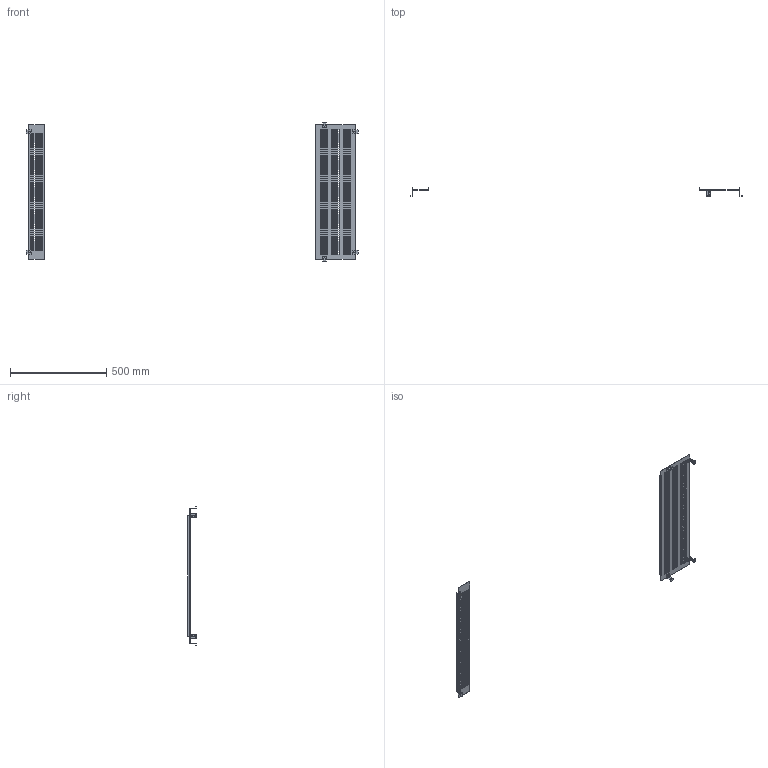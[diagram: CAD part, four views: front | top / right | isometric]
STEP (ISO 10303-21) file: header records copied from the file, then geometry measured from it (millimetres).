
FILE_DESCRIPTION(('CAx-IF Rec.Pracs.---Model Styling and Organization---1.2---2011-12-15','CAx-IF Rec.Pracs.---Geometric and Assembly Validation Properties---4.1---2014-06-16','CAx-IF Rec.Pracs.---PMI Polyline Presentation---2.0---2013-05-24'),'2;1');
FILE_NAME('R5SBPF831.stp','2021-05-06T03:02:53+03:00',(''),(''),'STEP Interface 4.4 by CT CoreTechnologie','3D_Evolution4.4 by CT CoreTechnologie','');
FILE_SCHEMA(('AUTOMOTIVE_DESIGN { 1 0 10303 214 1 1 1 1 }'));
Length unit declared in the file: millimetre
Products named in the file (4): R5SBPF831; RB.0521.00.00.0_-00; RB.0534.00.00.0_-03; RB.0533.00.00.0_-03 800x75
Assembly tree (8 placements, depth 2):
  R5SBPF831
    RB.0521.00.00.0_-00  x6
    RB.0534.00.00.0_-03
    RB.0533.00.00.0_-03 800x75
Bounding box: 1722 x 45 x 722 mm (x, y, z)
Surface area: 450848.6 mm2 (no closed solid volume)
Topology: 0 solids, 8 shells, 1286 faces, 3786 edges, 2516 vertices
Faces by surface type: plane 1200, cylinder 86
Entity records: 39373 total; most frequent: CARTESIAN_POINT 6907, ORIENTED_EDGE 6892, DIRECTION 5848, EDGE_CURVE 3446, VECTOR 3374, LINE 3374, VERTEX_POINT 2296, EDGE_LOOP 1686
